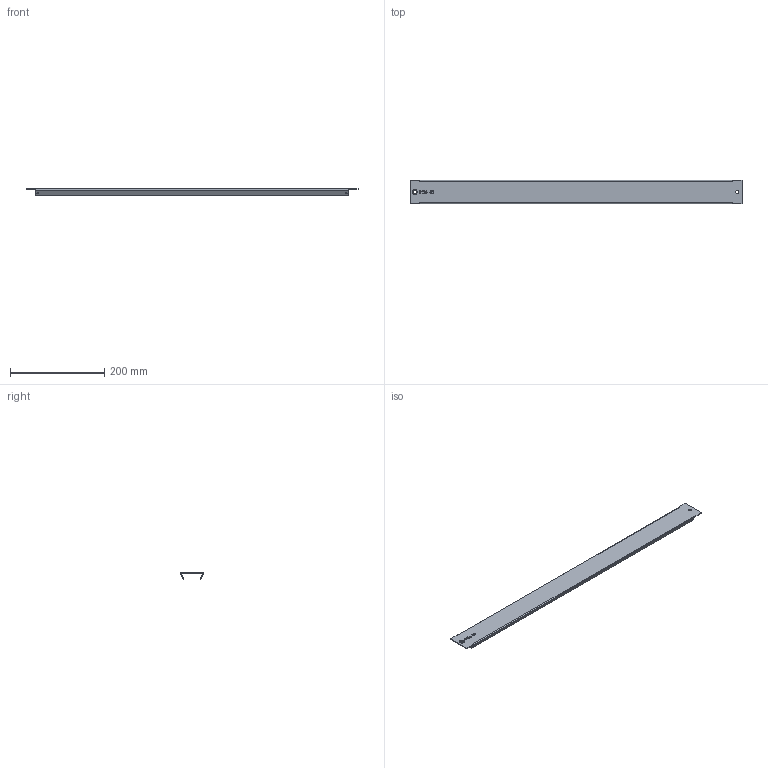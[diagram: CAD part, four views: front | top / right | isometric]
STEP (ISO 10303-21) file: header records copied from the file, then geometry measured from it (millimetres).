
FILE_DESCRIPTION (( 'STEP AP203' ), '1' );
FILE_NAME ('MSMBP0508R5_V1.step', '2015-06-11T10:41:35', ( '' ), ( '' ), 'SwSTEP 2.0', 'SolidWorks 2014', '' );
FILE_SCHEMA (( 'CONFIG_CONTROL_DESIGN' ));
Length unit declared in the file: millimetre
Products named in the file (1): MSMBP0508R5_V1
Bounding box: 703 x 49 x 13.37 mm (x, y, z)
Volume: 64338.8 mm3; surface area: 105040 mm2
Topology: 1 solids, 1 shells, 174 faces, 475 edges, 314 vertices
Faces by surface type: plane 86, bspline 70, cylinder 18
Entity records: 5660 total; most frequent: CARTESIAN_POINT 1602, ORIENTED_EDGE 950, DIRECTION 581, EDGE_CURVE 475, VERTEX_POINT 314, VECTOR 299, LINE 299, EDGE_LOOP 197
